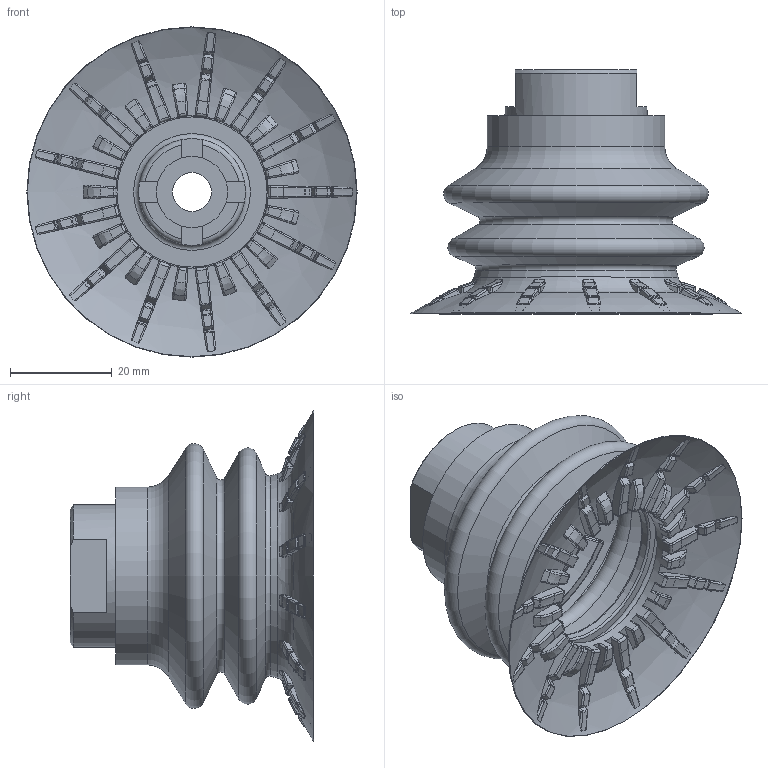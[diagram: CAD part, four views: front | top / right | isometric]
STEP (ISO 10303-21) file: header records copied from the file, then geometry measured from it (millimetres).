
FILE_DESCRIPTION (( 'STEP AP214' ), '1' );
FILE_NAME ('MB65P-3060T-G18FS.STEP', '2026-05-27T19:57:39', ( '' ), ( '' ), 'SwSTEP 2.0', 'SolidWorks 2025', '' );
FILE_SCHEMA (( 'AUTOMOTIVE_DESIGN' ));
Length unit declared in the file: inch
Products named in the file (3): MB65P-3060T; MB65P-3060T-G18FS; 401.053
Assembly tree (2 placements, depth 2):
  MB65P-3060T-G18FS
    401.053
    MB65P-3060T
Bounding box: 65 x 48 x 65 mm (x, y, z)
Volume: 28136.8 mm3; surface area: 24081.2 mm2
Topology: 2 solids, 2 shells, 1983 faces, 4666 edges, 2693 vertices
Faces by surface type: bspline 812, plane 300, cylinder 257, torus 251, sphere 236, cone 127
Full cylindrical faces by diameter (mm): 7.7 x1, 8.566 x1, 10.5 x1, 11.75 x3, 12.5 x1, 14 x1, 15 x1, 21 x1, 28 x1, 30 x1, 31 x1, 35 x1, 36 x1
Entity records: 70914 total; most frequent: CARTESIAN_POINT 32332, ORIENTED_EDGE 9150, DIRECTION 6630, EDGE_CURVE 4575, AXIS2_PLACEMENT_3D 3070, VERTEX_POINT 2680, B_SPLINE_CURVE_WITH_KNOTS 2139, EDGE_LOOP 2071
